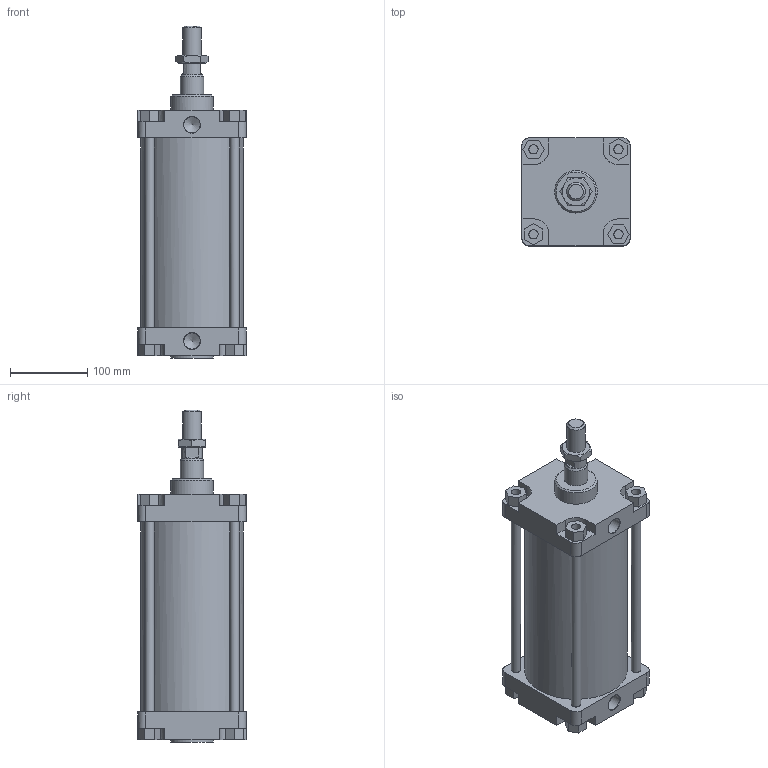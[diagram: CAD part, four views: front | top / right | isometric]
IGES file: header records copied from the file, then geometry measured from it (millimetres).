
Global section: file name: 1304_125_0150_01A; native system: Autodesk Inventor 2014; preprocessor: unknown; author: A. Manieri; date: 20161124.142420; units: millimetre
Bounding box: 140 x 140 x 430 mm (x, y, z)
Volume: 3192882.1 mm3; surface area: 478149 mm2
Topology: 9 solids, 9 shells, 175 faces, 440 edges, 295 vertices
Faces by surface type: bspline 175
